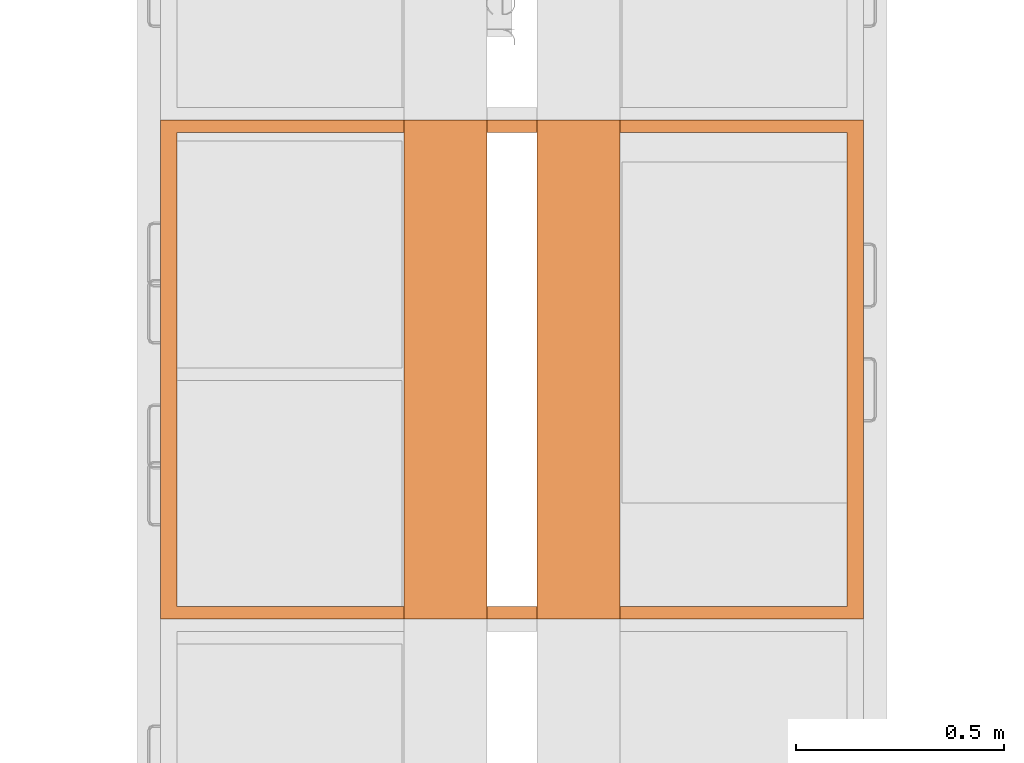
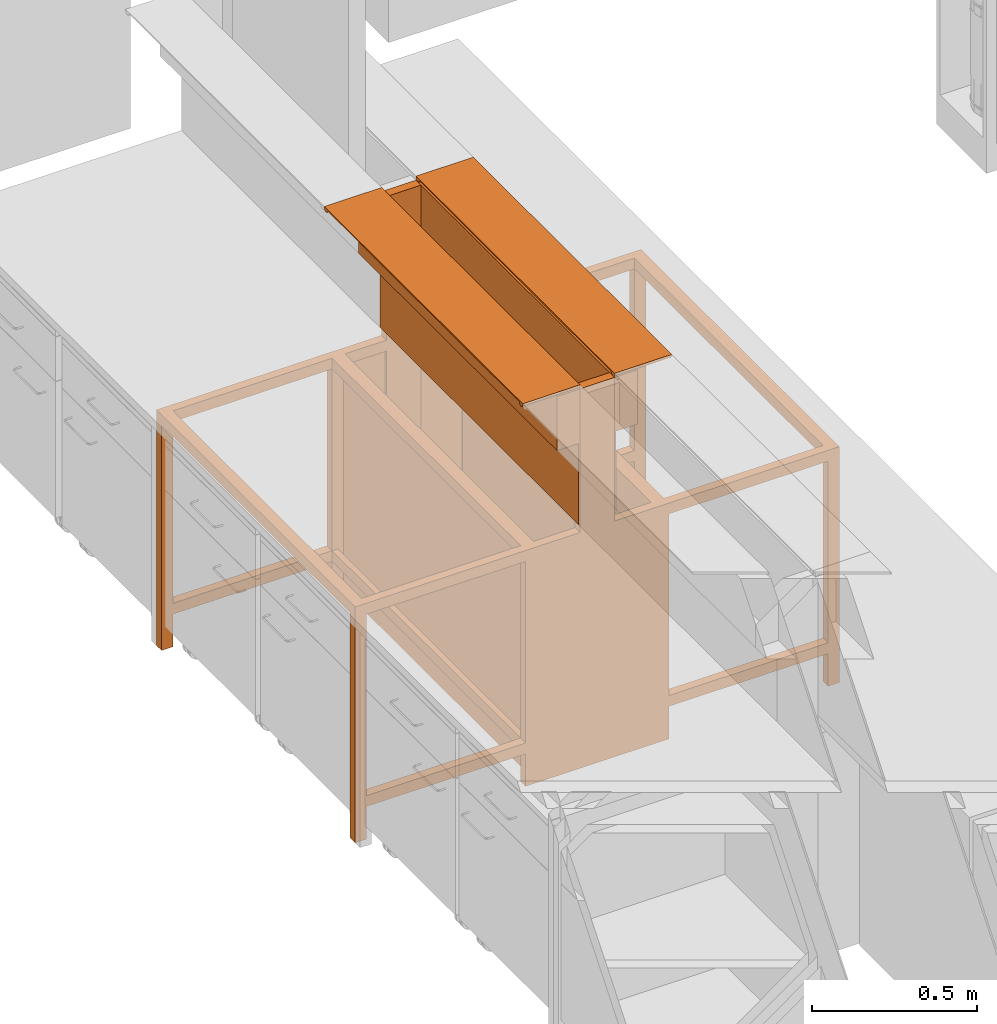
# One storey, part 19 of 43: 3 proxies.
"""IFC2X3 building model written with IfcOpenShell, lengths in metres."""

from ifc_helpers import new_model, entity, si_unit, converted_unit, derived_unit, direction, frame, frame_2d, origin, origin_2d_with_axis, place, context, subcontext, project, spatial, polyline, circle_curve, parameter, trimmed, segment, composite_curve, rectangle, outline, extrude, faceted_brep, source, transform, mapped, material, material_list, type_object, type_shapes, element, save


model = new_model("IFC2X3")

# Units and contexts
model_context = context("Model", 3, precision=1e-05, world=origin(), true_north=direction((6.12303176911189e-17, 1.0)))
body_context = subcontext(model_context, "Body", "Model", "MODEL_VIEW")
ifc_project = project(units=[si_unit("LENGTHUNIT", "METRE"), si_unit("AREAUNIT", "SQUARE_METRE"), si_unit("VOLUMEUNIT", "CUBIC_METRE"), converted_unit("PLANEANGLEUNIT", "DEGREE", entity("IfcRatioMeasure", 0.0174532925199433), si_unit("PLANEANGLEUNIT", "RADIAN"), dimensions=[0, 0, 0, 0, 0, 0, 0]), si_unit("MASSUNIT", "GRAM", prefix="KILO"), derived_unit("MASSDENSITYUNIT", [(si_unit("MASSUNIT", "GRAM", prefix="KILO"), 1), (si_unit("LENGTHUNIT", "METRE"), -3)]), derived_unit("MOMENTOFINERTIAUNIT", [(si_unit("LENGTHUNIT", "METRE"), 4)]), si_unit("TIMEUNIT", "SECOND"), si_unit("FREQUENCYUNIT", "HERTZ"), si_unit("THERMODYNAMICTEMPERATUREUNIT", "DEGREE_CELSIUS"), derived_unit("THERMALTRANSMITTANCEUNIT", [(si_unit("MASSUNIT", "GRAM", prefix="KILO"), 1), (si_unit("THERMODYNAMICTEMPERATUREUNIT", "KELVIN"), -1), (si_unit("TIMEUNIT", "SECOND"), -3)]), derived_unit("VOLUMETRICFLOWRATEUNIT", [(si_unit("LENGTHUNIT", "METRE"), 3), (si_unit("TIMEUNIT", "SECOND"), -1)]), si_unit("ELECTRICCURRENTUNIT", "AMPERE"), si_unit("ELECTRICVOLTAGEUNIT", "VOLT"), si_unit("POWERUNIT", "WATT"), si_unit("FORCEUNIT", "NEWTON", prefix="KILO"), si_unit("ILLUMINANCEUNIT", "LUX"), si_unit("LUMINOUSFLUXUNIT", "LUMEN"), si_unit("LUMINOUSINTENSITYUNIT", "CANDELA"), derived_unit("USERDEFINED", [(si_unit("MASSUNIT", "GRAM", prefix="KILO"), -1), (si_unit("LENGTHUNIT", "METRE"), -2), (si_unit("TIMEUNIT", "SECOND"), 3), (si_unit("LUMINOUSFLUXUNIT", "LUMEN"), 1)]), derived_unit("LINEARVELOCITYUNIT", [(si_unit("LENGTHUNIT", "METRE"), 1), (si_unit("TIMEUNIT", "SECOND"), -1)]), si_unit("PRESSUREUNIT", "PASCAL"), derived_unit("USERDEFINED", [(si_unit("LENGTHUNIT", "METRE"), -2), (si_unit("MASSUNIT", "GRAM", prefix="KILO"), 1), (si_unit("TIMEUNIT", "SECOND"), -2)]), derived_unit("LINEARFORCEUNIT", [(si_unit("MASSUNIT", "GRAM", prefix="KILO"), 1), (si_unit("LENGTHUNIT", "METRE"), 1), (si_unit("TIMEUNIT", "SECOND"), -2), (si_unit("LENGTHUNIT", "METRE"), -1)]), derived_unit("PLANARFORCEUNIT", [(si_unit("MASSUNIT", "GRAM", prefix="KILO"), 1), (si_unit("LENGTHUNIT", "METRE"), 1), (si_unit("TIMEUNIT", "SECOND"), -2), (si_unit("LENGTHUNIT", "METRE"), -2)])], contexts=[model_context])

# Site, building, storey
site_placement = place(None, origin())
site = spatial("IfcSite", under=ifc_project, at=site_placement, Name="Default", CompositionType="ELEMENT")
building_placement = place(site_placement, origin())
building = spatial("IfcBuilding", under=site, at=building_placement, CompositionType="ELEMENT")
storey_placement = place(building_placement, frame((0.0, 0.0, 3.0)))
storey = spatial("IfcBuildingStorey", under=building, at=storey_placement, Name="01 OG", CompositionType="ELEMENT", Elevation=3.0)

# Proxies
ifc_material_1 = material(Name="dh_Weiß")
ifc_material_2 = material(Name="dh_Glas WHS")
ifc_material_3 = material(Name="dh_Blau")
ifc_material_list_1 = material_list([ifc_material_1, ifc_material_2, ifc_material_3])
ifc_material_list_2 = material_list([ifc_material_2, ifc_material_3, ifc_material_1])
building_element_proxy_type_1 = type_object("IfcBuildingElementProxyType", Name="dh_Medienwand WHA:120 Stehtisch", PredefinedType="NOTDEFINED", material=ifc_material_list_2)
shared_shape_1 = source(origin(), body_context, "Body", "SweptSolid", [
    extrude(outline(composite_curve([segment(trimmed(circle_curve(frame_2d((0.0, 0.0), x_axis=(-1.0, 0.0)), 0.01), [parameter(0.0)], [parameter(180.0)], True, "PARAMETER"), True, "CONTINUOUS"), segment(polyline([(0.01, 0.0), (-0.01, 0.0)]), True, "CONTINUOUS")], self_intersect=False)), frame((-0.589999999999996, 0.1, 1.40999999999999), z_axis=(0.0, -1.0, 0.0), x_axis=(1.0, 0.0, 0.0)), (0.0, 0.0, -1.0), 0.2),
    extrude(outline(composite_curve([segment(trimmed(circle_curve(origin_2d_with_axis(), 0.00999999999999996), [parameter(0.0)], [parameter(180.0)], True, "PARAMETER"), True, "CONTINUOUS"), segment(polyline([(-0.0099999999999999, 0.0), (0.0099999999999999, 0.0)]), True, "CONTINUOUS")], self_intersect=False)), frame((0.590000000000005, 0.1, 1.40999999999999), z_axis=(0.0, 1.0, 0.0), x_axis=(1.0, 0.0, 0.0)), (0.0, 0.0, 1.0), 0.2),
    extrude(rectangle(XDim=1.2, YDim=0.2, at=origin_2d_with_axis()), frame((0.0, 0.2, 1.40999999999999), z_axis=(0.0, 0.0, 1.0), x_axis=(-1.0, 0.0, 0.0)), (0.0, 0.0, 1.0), 0.00499999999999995),
    extrude(rectangle(XDim=0.00500000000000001, YDim=1.2, at=frame_2d((-3.38271077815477e-17, 0.0), x_axis=(1.0, 0.0))), frame((0.0, 0.2975, 0.900000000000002), z_axis=(0.0, 0.0, 1.0), x_axis=(0.0, 1.0, 0.0)), (0.0, 0.0, 1.0), 0.299999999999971),
    extrude(rectangle(XDim=1.2, YDim=0.08, at=frame_2d((0.0, 3.46944695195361e-17), x_axis=(1.0, 0.0))), frame((0.0, 0.26, 1.20000000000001), z_axis=(0.0, 0.0, 1.0), x_axis=(-1.0, 0.0, 0.0)), (0.0, 0.0, 1.0), 0.199999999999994),
])
type_shapes(building_element_proxy_type_1, [shared_shape_1])
proxy_1_placement = place(storey_placement, frame((13.24, 14.5240000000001, 0.7), z_axis=(0.0, 0.0, 1.0), x_axis=(0.0, -1.0, 0.0)))
element("IfcBuildingElementProxy", 1, at=proxy_1_placement, inside=storey, type_object=building_element_proxy_type_1, material=ifc_material_list_1, Name="dh_Medienwand WHA:120 Stehtisch", ObjectType="dh_Medienwand WHA:120 Stehtisch", context=body_context, shape_type="MappedRepresentation", body=[
    mapped(shared_shape_1, transform((0.0, 0.0, 0.0), scale=1.0)),
])
ifc_material_list_3 = material_list([ifc_material_1, ifc_material_2, ifc_material_3])
proxy_2_placement = place(storey_placement, frame((13.96, 14.5240000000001, 0.7), z_axis=(0.0, 0.0, 1.0), x_axis=(0.0, 1.0, 0.0)))
element("IfcBuildingElementProxy", 2, at=proxy_2_placement, inside=storey, type_object=building_element_proxy_type_1, material=ifc_material_list_3, Name="dh_Medienwand WHA:120 Stehtisch", ObjectType="dh_Medienwand WHA:120 Stehtisch", context=body_context, shape_type="MappedRepresentation", body=[
    mapped(shared_shape_1, transform((0.0, 0.0, 0.0), scale=1.0)),
])
ifc_material_4 = material(Name="dh_EZ blau")
ifc_material_5 = material(Name="Stopper")
ifc_material_list_4 = material_list([ifc_material_4, ifc_material_5, ifc_material_1])
ifc_material_list_5 = material_list([ifc_material_2, ifc_material_4])
building_element_proxy_type_2 = type_object("IfcBuildingElementProxyType", Name="dh_Energiezelle-Doppel ST:DEZ_ST120 ohne WHS WHA", PredefinedType="NOTDEFINED", material=ifc_material_list_5)
shared_shape_2 = source(origin(), body_context, "Body", "Brep", [
    faceted_brep([(0.6, 0.119999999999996, 1.4), (0.57, 0.119999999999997, 1.4), (0.57, 0.0, 1.4), (0.6, 0.0, 1.4), (0.57, 0.119999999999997, 0.0), (0.6, 0.119999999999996, 0.0), (0.6, 0.0, 0.0), (0.57, 0.0, 0.0)], [[[0, 1, 2, 3]], [[4, 5, 6, 7]], [[2, 1, 4, 7]], [[1, 0, 5, 4]], [[0, 3, 6, 5]], [[3, 2, 7, 6]]]),
    faceted_brep([(-0.6, 0.0, 1.4), (-0.599999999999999, 0.120000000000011, 1.4), (-0.599999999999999, 0.120000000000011, 0.0), (-0.6, 0.0, 0.0), (-0.569999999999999, 0.120000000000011, 1.4), (-0.569999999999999, 0.120000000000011, 0.0), (-0.570000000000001, 0.0, 1.4), (-0.57, 0.0, 0.0)], [[[0, 1, 2, 3]], [[1, 4, 5, 2]], [[4, 6, 7, 5]], [[6, 0, 3, 7]], [[2, 5, 7, 3]], [[4, 1, 0, 6]]]),
    faceted_brep([(-0.599999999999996, 0.120000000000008, 0.870000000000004), (-0.570000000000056, 0.120000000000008, 0.870000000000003), (-0.570000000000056, 0.270000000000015, 0.870000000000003), (0.569999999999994, 0.270000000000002, 0.87), (0.569999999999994, 0.12, 0.87), (0.600000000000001, 0.12, 0.87), (0.600000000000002, 0.904999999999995, 0.87), (-0.599999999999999, 0.905000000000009, 0.870000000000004), (0.569999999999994, 0.31, 0.87), (-0.570000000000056, 0.310000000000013, 0.870000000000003), (-0.570000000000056, 0.865000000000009, 0.870000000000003), (0.569999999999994, 0.864999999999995, 0.87), (0.569999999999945, 0.865000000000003, 0.83), (-0.570000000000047, 0.865000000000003, 0.830000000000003), (-0.570000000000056, 0.905000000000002, 0.830000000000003), (0.569999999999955, 0.905000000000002, 0.83), (-0.570000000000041, 0.270000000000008, 0.830000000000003), (0.569999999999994, 0.270000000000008, 0.83), (0.56999999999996, 0.31000000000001, 0.83), (-0.570000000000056, 0.31000000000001, 0.830000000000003), (-0.570000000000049, 0.905000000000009, 0.0100000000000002), (-0.600000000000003, 0.905000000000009, 0.0100000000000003), (0.599999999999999, 0.904999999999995, 0.00999999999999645), (0.569999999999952, 0.904999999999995, 0.00999999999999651), (0.599999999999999, 0.864999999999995, 0.00999999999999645), (0.569999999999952, 0.864999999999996, 0.00999999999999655), (-0.600000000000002, 0.865000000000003, 0.0100000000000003), (-0.599999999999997, 0.865000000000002, 0.830000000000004), (-0.600000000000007, 0.310000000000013, 0.830000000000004), (-0.60000000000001, 0.310000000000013, 0.0100000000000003), (-0.60000000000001, 0.270000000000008, 0.0100000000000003), (-0.600000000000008, 0.270000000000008, 0.830000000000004), (-0.599999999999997, 0.120000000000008, 0.830000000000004), (-0.570000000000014, 0.270000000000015, 0.0100000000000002), (-0.570000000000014, 0.31000000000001, 0.0100000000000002), (0.569999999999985, 0.31, 0.00999999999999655), (0.569999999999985, 0.270000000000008, 0.00999999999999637), (0.600000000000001, 0.12, 0.83), (0.599999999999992, 0.270000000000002, 0.83), (0.599999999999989, 0.270000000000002, 0.00999999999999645), (0.59999999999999, 0.31000000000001, 0.00999999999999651), (0.599999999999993, 0.31000000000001, 0.83), (0.599999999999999, 0.864999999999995, 0.83), (-0.570000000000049, 0.865000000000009, 0.0100000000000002), (-0.570000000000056, 0.120000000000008, 0.830000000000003), (0.569999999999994, 0.12, 0.83)], [[[0, 1, 2, 3, 4, 5, 6, 7], [8, 9, 10, 11]], [[12, 13, 14, 15]], [[16, 17, 3, 2]], [[18, 19, 9, 8]], [[13, 12, 11, 10]], [[15, 14, 20, 21, 7, 6, 22, 23]], [[24, 25, 23, 22]], [[0, 7, 21, 26, 27, 28, 29, 30, 31, 32]], [[33, 34, 19, 16]], [[35, 36, 17, 18]], [[6, 5, 37, 38, 39, 40, 41, 42, 24, 22]], [[43, 20, 14, 13]], [[23, 25, 12, 15]], [[44, 32, 31, 16]], [[1, 0, 32, 44]], [[10, 9, 19, 13]], [[8, 11, 12, 18]], [[5, 4, 45, 37]], [[45, 4, 3, 17]], [[1, 44, 16, 2]], [[37, 45, 17, 38]], [[18, 12, 42, 41]], [[13, 19, 28, 27]], [[43, 26, 21, 20]], [[39, 36, 35, 40]], [[33, 30, 29, 34]], [[26, 43, 13, 27]], [[25, 24, 42, 12]], [[40, 35, 18, 41]], [[34, 29, 28, 19]], [[30, 33, 16, 31]], [[36, 39, 38, 17]], [[17, 16, 19, 18]]]),
    faceted_brep([(-0.599999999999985, 0.270000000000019, 0.01), (-0.570000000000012, 0.270000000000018, 0.01), (-0.570000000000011, 0.310000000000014, 0.01), (-0.599999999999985, 0.310000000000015, 0.01), (-0.599999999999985, 0.310000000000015, 0.0), (-0.599999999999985, 0.270000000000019, 0.0), (-0.570000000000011, 0.310000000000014, 0.0), (-0.570000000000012, 0.270000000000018, 0.0)], [[[0, 1, 2, 3]], [[0, 3, 4, 5]], [[3, 2, 6, 4]], [[2, 1, 7, 6]], [[1, 0, 5, 7]], [[5, 4, 6, 7]]]),
    faceted_brep([(0.56999999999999, 0.270000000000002, 0.0), (0.569999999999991, 0.31, 0.0), (0.600000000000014, 0.31, 0.0), (0.600000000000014, 0.270000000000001, 0.0), (0.56999999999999, 0.270000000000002, 0.01), (0.569999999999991, 0.31, 0.01), (0.600000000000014, 0.31, 0.01), (0.600000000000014, 0.270000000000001, 0.01)], [[[0, 1, 2, 3]], [[4, 5, 1, 0]], [[5, 6, 2, 1]], [[6, 7, 3, 2]], [[7, 4, 0, 3]], [[4, 7, 6, 5]]]),
    faceted_brep([(0.570000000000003, 0.864999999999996, 0.01), (0.570000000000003, 0.904999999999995, 0.01), (0.570000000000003, 0.904999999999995, 0.0), (0.570000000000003, 0.864999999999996, 0.0), (0.600000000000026, 0.904999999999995, 0.01), (0.600000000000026, 0.904999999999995, 0.0), (0.600000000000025, 0.864999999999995, 0.01), (0.600000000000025, 0.864999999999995, 0.0)], [[[0, 1, 2, 3]], [[1, 4, 5, 2]], [[4, 6, 7, 5]], [[6, 0, 3, 7]], [[3, 2, 5, 7]], [[0, 6, 4, 1]]]),
    faceted_brep([(-0.599999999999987, 0.865000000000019, 0.01), (-0.599999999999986, 0.905000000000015, 0.01), (-0.599999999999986, 0.905000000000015, 0.0), (-0.599999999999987, 0.865000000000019, 0.0), (-0.569999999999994, 0.905000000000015, 0.01), (-0.569999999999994, 0.905000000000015, 0.0), (-0.569999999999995, 0.865000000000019, 0.01), (-0.569999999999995, 0.865000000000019, 0.0)], [[[0, 1, 2, 3]], [[1, 4, 5, 2]], [[4, 6, 7, 5]], [[6, 0, 3, 7]], [[3, 2, 5, 7]], [[0, 6, 4, 1]]]),
    faceted_brep([(0.569999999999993, 0.27, 0.870000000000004), (-0.570000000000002, 0.270000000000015, 0.870000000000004), (-0.570000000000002, 0.265000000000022, 0.870000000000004), (0.569999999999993, 0.265000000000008, 0.870000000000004), (0.569999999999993, 0.27, 0.0), (0.569999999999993, 0.265000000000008, 0.0), (-0.570000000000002, 0.265000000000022, 0.0), (-0.570000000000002, 0.270000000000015, 0.0)], [[[0, 1, 2, 3]], [[4, 5, 6, 7]], [[1, 0, 4, 7]], [[2, 1, 7, 6]], [[3, 2, 6, 5]], [[0, 3, 5, 4]]]),
    faceted_brep([(-0.6, 0.120000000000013, 0.830000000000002), (-0.58, 0.120000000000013, 0.830000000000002), (-0.579999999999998, 0.270000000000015, 0.830000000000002), (-0.599999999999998, 0.270000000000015, 0.830000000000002), (-0.599999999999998, 0.270000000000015, 0.0), (-0.6, 0.120000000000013, 0.0), (-0.579999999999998, 0.270000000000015, 0.0), (-0.58, 0.120000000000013, 0.0)], [[[0, 1, 2, 3]], [[0, 3, 4, 5]], [[3, 2, 6, 4]], [[2, 1, 7, 6]], [[1, 0, 5, 7]], [[5, 4, 6, 7]]]),
    faceted_brep([(0.58, 0.119999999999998, 0.0), (0.580000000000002, 0.270000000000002, 0.0), (0.600000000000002, 0.270000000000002, 0.0), (0.6, 0.119999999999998, 0.0), (0.58, 0.119999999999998, 0.830000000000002), (0.580000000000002, 0.270000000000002, 0.830000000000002), (0.600000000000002, 0.270000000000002, 0.830000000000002), (0.6, 0.119999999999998, 0.830000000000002)], [[[0, 1, 2, 3]], [[4, 5, 1, 0]], [[5, 6, 2, 1]], [[6, 7, 3, 2]], [[7, 4, 0, 3]], [[4, 7, 6, 5]]]),
    faceted_brep([(0.569999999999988, 0.290000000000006, 0.16), (0.569999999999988, 0.310000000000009, 0.16), (-0.570000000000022, 0.310000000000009, 0.160000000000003), (-0.570000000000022, 0.290000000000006, 0.160000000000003), (0.569999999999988, 0.290000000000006, 0.12), (-0.570000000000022, 0.290000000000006, 0.120000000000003), (-0.570000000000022, 0.310000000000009, 0.120000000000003), (0.569999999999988, 0.310000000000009, 0.12)], [[[0, 1, 2, 3]], [[4, 5, 6, 7]], [[0, 3, 5, 4]], [[3, 2, 6, 5]], [[2, 1, 7, 6]], [[1, 0, 4, 7]]]),
    faceted_brep([(0.569999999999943, 0.310000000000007, 0.16), (0.599999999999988, 0.310000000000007, 0.16), (0.599999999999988, 0.865000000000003, 0.16), (0.569999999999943, 0.865000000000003, 0.16), (0.569999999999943, 0.310000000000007, 0.12), (0.569999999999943, 0.865000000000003, 0.12), (0.599999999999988, 0.865000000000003, 0.12), (0.599999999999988, 0.310000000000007, 0.12)], [[[0, 1, 2, 3]], [[4, 5, 6, 7]], [[0, 3, 5, 4]], [[3, 2, 6, 5]], [[2, 1, 7, 6]], [[1, 0, 4, 7]]]),
    faceted_brep([(-0.570000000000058, 0.310000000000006, 0.160000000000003), (-0.600000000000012, 0.310000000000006, 0.160000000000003), (-0.600000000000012, 0.310000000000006, 0.120000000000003), (-0.570000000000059, 0.310000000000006, 0.120000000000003), (-0.600000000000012, 0.865000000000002, 0.160000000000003), (-0.600000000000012, 0.865000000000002, 0.120000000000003), (-0.570000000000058, 0.865000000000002, 0.160000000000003), (-0.570000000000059, 0.865000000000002, 0.120000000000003)], [[[0, 1, 2, 3]], [[1, 4, 5, 2]], [[4, 6, 7, 5]], [[6, 0, 3, 7]], [[3, 2, 5, 7]], [[0, 6, 4, 1]]]),
    faceted_brep([(-0.599999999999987, -0.150000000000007, 0.01), (-0.599999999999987, -0.190000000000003, 0.01), (-0.570000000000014, -0.190000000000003, 0.01), (-0.570000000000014, -0.150000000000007, 0.01), (-0.599999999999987, -0.150000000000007, 0.0), (-0.599999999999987, -0.190000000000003, 0.0), (-0.570000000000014, -0.190000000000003, 0.0), (-0.570000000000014, -0.150000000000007, 0.0)], [[[0, 1, 2, 3]], [[1, 0, 4, 5]], [[2, 1, 5, 6]], [[3, 2, 6, 7]], [[0, 3, 7, 4]], [[4, 7, 6, 5]]]),
    faceted_brep([(-0.599999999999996, -0.745000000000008, 0.0), (-0.570000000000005, -0.745000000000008, 0.0), (-0.570000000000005, -0.785000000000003, 0.0), (-0.599999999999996, -0.785000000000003, 0.0), (-0.599999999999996, -0.785000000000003, 0.01), (-0.599999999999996, -0.745000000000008, 0.01), (-0.570000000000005, -0.785000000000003, 0.01), (-0.570000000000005, -0.745000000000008, 0.01)], [[[0, 1, 2, 3]], [[4, 5, 0, 3]], [[6, 4, 3, 2]], [[7, 6, 2, 1]], [[5, 7, 1, 0]], [[5, 4, 6, 7]]]),
    faceted_brep([(0.569999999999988, -0.190000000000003, 0.01), (0.569999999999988, -0.150000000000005, 0.01), (0.569999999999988, -0.150000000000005, 0.0), (0.569999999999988, -0.190000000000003, 0.0), (0.600000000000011, -0.190000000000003, 0.01), (0.600000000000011, -0.190000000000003, 0.0), (0.600000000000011, -0.150000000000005, 0.01), (0.600000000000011, -0.150000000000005, 0.0)], [[[0, 1, 2, 3]], [[4, 0, 3, 5]], [[6, 4, 5, 7]], [[1, 6, 7, 2]], [[2, 7, 5, 3]], [[1, 0, 4, 6]]]),
    faceted_brep([(0.569999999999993, -0.784999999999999, 0.01), (0.569999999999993, -0.744999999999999, 0.01), (0.569999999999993, -0.744999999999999, 0.0), (0.569999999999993, -0.784999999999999, 0.0), (0.600000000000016, -0.784999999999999, 0.01), (0.600000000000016, -0.784999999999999, 0.0), (0.600000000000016, -0.744999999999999, 0.01), (0.600000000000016, -0.744999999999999, 0.0)], [[[0, 1, 2, 3]], [[4, 0, 3, 5]], [[6, 4, 5, 7]], [[1, 6, 7, 2]], [[2, 7, 5, 3]], [[1, 0, 4, 6]]]),
    faceted_brep([(0.569999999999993, -0.150000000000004, 0.870000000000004), (0.569999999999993, -0.145000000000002, 0.870000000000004), (-0.570000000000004, -0.145000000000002, 0.870000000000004), (-0.570000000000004, -0.150000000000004, 0.870000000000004), (0.569999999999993, -0.150000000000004, 0.0), (-0.570000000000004, -0.150000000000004, 0.0), (-0.570000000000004, -0.145000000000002, 0.0), (0.569999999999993, -0.145000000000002, 0.0)], [[[0, 1, 2, 3]], [[4, 5, 6, 7]], [[0, 3, 5, 4]], [[3, 2, 6, 5]], [[2, 1, 7, 6]], [[1, 0, 4, 7]]]),
    faceted_brep([(-0.6, 0.0, 0.830000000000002), (-0.6, -0.150000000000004, 0.830000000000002), (-0.58, -0.150000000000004, 0.830000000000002), (-0.58, 0.0, 0.830000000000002), (-0.6, 0.0, 0.0), (-0.58, 0.0, 0.0), (-0.58, -0.150000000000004, 0.0), (-0.6, -0.150000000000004, 0.0)], [[[0, 1, 2, 3]], [[4, 5, 6, 7]], [[1, 0, 4, 7]], [[2, 1, 7, 6]], [[3, 2, 6, 5]], [[0, 3, 5, 4]]]),
    faceted_brep([(0.58, -0.150000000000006, 0.830000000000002), (0.58, 0.0, 0.830000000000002), (0.58, 0.0, 0.0), (0.58, -0.150000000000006, 0.0), (0.6, -0.150000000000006, 0.830000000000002), (0.6, -0.150000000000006, 0.0), (0.6, 0.0, 0.830000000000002), (0.6, 0.0, 0.0)], [[[0, 1, 2, 3]], [[4, 0, 3, 5]], [[6, 4, 5, 7]], [[1, 6, 7, 2]], [[2, 7, 5, 3]], [[1, 0, 4, 6]]]),
    faceted_brep([(-0.570000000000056, 0.0, 0.870000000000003), (-0.60000000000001, 0.0, 0.870000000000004), (-0.600000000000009, -0.784999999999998, 0.870000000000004), (0.599999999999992, -0.784999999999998, 0.87), (0.59999999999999, 0.0, 0.87), (0.569999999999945, 0.0, 0.87), (0.569999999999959, -0.150000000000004, 0.87), (-0.570000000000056, -0.150000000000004, 0.870000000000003), (-0.570000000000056, -0.744999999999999, 0.870000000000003), (-0.570000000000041, -0.190000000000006, 0.870000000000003), (0.569999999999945, -0.190000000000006, 0.87), (0.569999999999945, -0.744999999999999, 0.87), (-0.60000000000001, 0.0, 0.830000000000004), (-0.570000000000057, 0.0, 0.830000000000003), (-0.570000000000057, -0.150000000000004, 0.830000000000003), (-0.60000000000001, -0.150000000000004, 0.830000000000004), (-0.600000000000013, -0.150000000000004, 0.0100000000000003), (-0.600000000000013, -0.190000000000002, 0.0100000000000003), (-0.60000000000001, -0.190000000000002, 0.830000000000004), (-0.60000000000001, -0.744999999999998, 0.830000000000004), (-0.600000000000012, -0.744999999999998, 0.0100000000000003), (-0.600000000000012, -0.784999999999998, 0.0100000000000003), (0.569999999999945, 0.0, 0.83), (0.569999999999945, -0.150000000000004, 0.83), (0.59999999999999, 0.0, 0.83), (0.599999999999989, -0.784999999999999, 0.00999999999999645), (0.599999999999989, -0.744999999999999, 0.00999999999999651), (0.59999999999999, -0.744999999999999, 0.83), (0.59999999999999, -0.190000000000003, 0.83), (0.599999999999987, -0.190000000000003, 0.00999999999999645), (0.599999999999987, -0.150000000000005, 0.00999999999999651), (0.59999999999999, -0.150000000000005, 0.83), (-0.570000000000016, -0.150000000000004, 0.0100000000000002), (-0.570000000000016, -0.190000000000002, 0.0100000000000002), (-0.570000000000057, -0.190000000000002, 0.830000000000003), (0.569999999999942, -0.150000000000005, 0.00999999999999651), (0.569999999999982, -0.190000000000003, 0.00999999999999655), (0.569999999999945, -0.190000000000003, 0.83), (-0.570000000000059, -0.744999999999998, 0.0100000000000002), (-0.570000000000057, -0.744999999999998, 0.830000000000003), (-0.570000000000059, -0.784999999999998, 0.0100000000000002), (-0.570000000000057, -0.784999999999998, 0.830000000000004), (0.569999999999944, -0.784999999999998, 0.83), (0.569999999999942, -0.784999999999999, 0.00999999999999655), (0.569999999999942, -0.744999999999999, 0.00999999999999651), (0.569999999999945, -0.744999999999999, 0.83)], [[[0, 1, 2, 3, 4, 5, 6, 7], [8, 9, 10, 11]], [[12, 13, 14, 15]], [[1, 0, 13, 12]], [[1, 12, 15, 16, 17, 18, 19, 20, 21, 2]], [[13, 0, 7, 14]], [[5, 22, 23, 6]], [[24, 4, 3, 25, 26, 27, 28, 29, 30, 31]], [[5, 4, 24, 22]], [[32, 33, 17, 16]], [[32, 16, 15, 14]], [[17, 33, 34, 18]], [[30, 35, 23, 31]], [[36, 29, 28, 37]], [[38, 20, 19, 39]], [[3, 2, 21, 40, 41, 42, 43, 25]], [[26, 44, 45, 27]], [[42, 41, 39, 45]], [[7, 6, 23, 14]], [[10, 9, 34, 37]], [[8, 11, 45, 39]], [[37, 34, 14, 23]], [[38, 40, 21, 20]], [[30, 29, 36, 35]], [[26, 25, 43, 44]], [[37, 45, 11, 10]], [[35, 36, 37, 23]], [[44, 43, 42, 45]], [[39, 34, 9, 8]], [[40, 38, 39, 41]], [[33, 32, 14, 34]], [[34, 39, 19, 18]], [[22, 24, 31, 23]], [[28, 27, 45, 37]]]),
    faceted_brep([(0.569999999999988, -0.170000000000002, 0.16), (-0.570000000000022, -0.170000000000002, 0.160000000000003), (-0.570000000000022, -0.190000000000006, 0.160000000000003), (0.569999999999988, -0.190000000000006, 0.16), (0.569999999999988, -0.170000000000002, 0.12), (0.569999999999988, -0.190000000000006, 0.12), (-0.570000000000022, -0.190000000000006, 0.120000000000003), (-0.570000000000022, -0.170000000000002, 0.120000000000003)], [[[0, 1, 2, 3]], [[4, 5, 6, 7]], [[1, 0, 4, 7]], [[2, 1, 7, 6]], [[3, 2, 6, 5]], [[0, 3, 5, 4]]]),
    faceted_brep([(0.569999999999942, -0.190000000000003, 0.16), (0.569999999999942, -0.744999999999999, 0.16), (0.599999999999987, -0.744999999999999, 0.16), (0.599999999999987, -0.190000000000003, 0.16), (0.569999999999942, -0.190000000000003, 0.12), (0.569999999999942, -0.744999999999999, 0.12), (0.599999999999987, -0.744999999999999, 0.12), (0.599999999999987, -0.190000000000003, 0.12)], [[[0, 1, 2, 3]], [[1, 0, 4, 5]], [[2, 1, 5, 6]], [[3, 2, 6, 7]], [[0, 3, 7, 4]], [[4, 7, 6, 5]]]),
    faceted_brep([(-0.570000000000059, -0.190000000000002, 0.120000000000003), (-0.570000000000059, -0.744999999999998, 0.120000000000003), (-0.600000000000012, -0.744999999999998, 0.120000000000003), (-0.600000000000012, -0.190000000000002, 0.120000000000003), (-0.600000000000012, -0.190000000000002, 0.160000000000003), (-0.570000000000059, -0.190000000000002, 0.160000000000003), (-0.600000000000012, -0.744999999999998, 0.160000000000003), (-0.570000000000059, -0.744999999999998, 0.160000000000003)], [[[0, 1, 2, 3]], [[4, 5, 0, 3]], [[6, 4, 3, 2]], [[7, 6, 2, 1]], [[5, 7, 1, 0]], [[5, 4, 6, 7]]]),
])
type_shapes(building_element_proxy_type_2, [shared_shape_2])
proxy_3_placement = place(storey_placement, frame((13.66, 14.5240000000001, 0.7), z_axis=(0.0, 0.0, 1.0), x_axis=(0.0, 1.0, 0.0)))
element("IfcBuildingElementProxy", 3, at=proxy_3_placement, inside=storey, type_object=building_element_proxy_type_2, material=ifc_material_list_4, Name="dh_Energiezelle-Doppel ST:DEZ_ST120 ohne WHS WHA", ObjectType="dh_Energiezelle-Doppel ST:DEZ_ST120 ohne WHS WHA", context=body_context, shape_type="MappedRepresentation", body=[
    mapped(shared_shape_2, transform((0.0, 0.0, 0.0), scale=1.0)),
])

save(model, "model.ifc")
